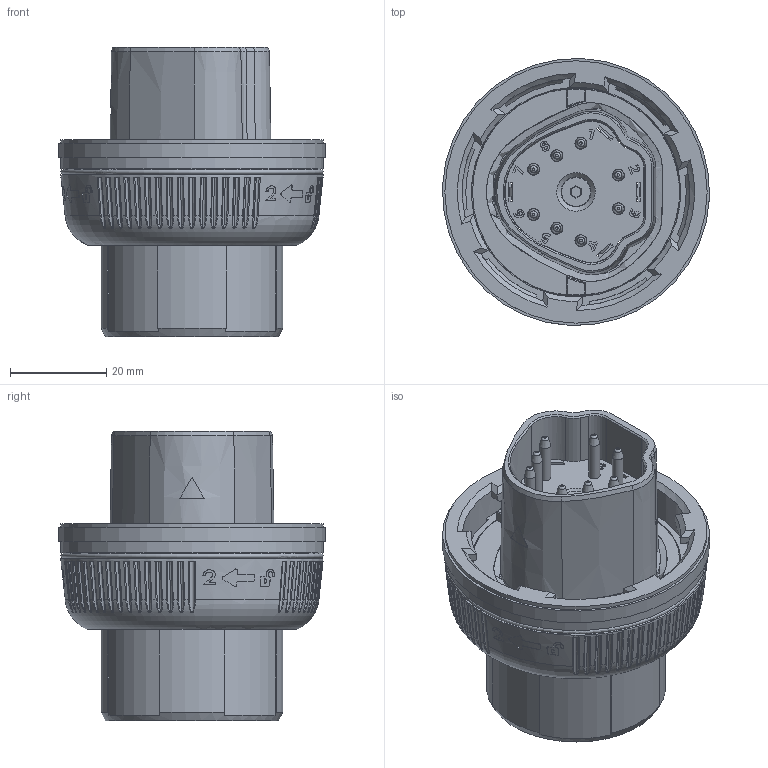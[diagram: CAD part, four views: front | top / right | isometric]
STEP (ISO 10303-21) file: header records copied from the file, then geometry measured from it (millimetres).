
FILE_DESCRIPTION(/* description */ (''),/* implementation_level */ '2;1');
FILE_NAME(/* name */ 'PAW1210C0001-石头档.stp',/* time_stamp */ '2025-03-25T16:47:49+08:00',/* author */ (''),/* organization */ (''),/* preprocessor_version */ 'ST-DEVELOPER v16.7',/* originating_system */ 'SIEMENS PLM Software NX 1946',/* authorisation */ '');
FILE_SCHEMA (('AUTOMOTIVE_DESIGN { 1 0 10303 214 3 1 1 1 }'));
Products named in the file (1): PAW11＋12（PAW07＋08升级版）-
20250325
Bounding box: 55.42 x 55.42 x 60.2 mm (x, y, z)
Surface area: 33970.2 mm2
Topology: 1 solids, 2 shells, 1852 faces, 5238 edges, 3400 vertices
Faces by surface type: plane 1019, cylinder 396, cone 216, bspline 120, extrusion 72, torus 24, sphere 4, revolution 1
Full cylindrical faces by diameter (mm): 1.5 x8, 2.3 x16, 2.5 x16, 3 x1, 3.5 x1, 3.8 x8, 4 x8, 4.36 x1, 4.85 x1, 34 x1, 41 x1, 43 x1, 43.5 x1, 47.3 x1, 52.9 x2, 54.5 x2, 55.5 x1
Entity records: 74145 total; most frequent: CARTESIAN_POINT 27378, ORIENTED_EDGE 10052, DIRECTION 9088, EDGE_CURVE 5026, AXIS2_PLACEMENT_3D 3333, VERTEX_POINT 3317, VECTOR 2421, EDGE_LOOP 2395
